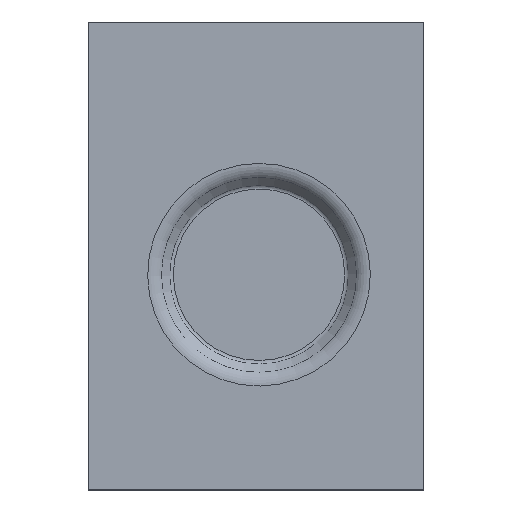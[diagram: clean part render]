
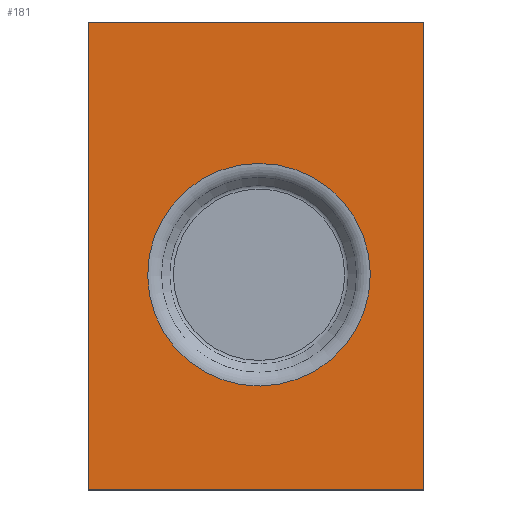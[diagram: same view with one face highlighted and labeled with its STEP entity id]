
A CAD part, top view. The second image highlights one B-rep face of the part: STEP entity #181.
In plain terms, the highlighted planar face has unit normal (0, 0, 1).
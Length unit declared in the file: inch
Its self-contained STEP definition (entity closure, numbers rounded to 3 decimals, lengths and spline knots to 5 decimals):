
#26=CARTESIAN_POINT('',(-3.07489,5.85,0.05));
#27=VERTEX_POINT('',#26);
#42=CARTESIAN_POINT('',(-3.07489,3.58606,0.05));
#43=VERTEX_POINT('',#42);
#50=CARTESIAN_POINT('',(-3.07489,6.60929,0.05));
#51=DIRECTION('',(0.,-1.,0.));
#52=VECTOR('',#51,1.);
#53=LINE('',#50,#52);
#54=EDGE_CURVE('',#27,#43,#53,.T.);
#73=CARTESIAN_POINT('',(-1.45422,3.58606,0.05));
#74=VERTEX_POINT('',#73);
#81=CARTESIAN_POINT('',(28.15854,3.58606,0.05));
#82=DIRECTION('',(1.,0.,0.));
#83=VECTOR('',#82,1.);
#84=LINE('',#81,#83);
#85=EDGE_CURVE('',#43,#74,#84,.T.);
#131=CARTESIAN_POINT('',(-1.45422,5.85,0.05));
#132=VERTEX_POINT('',#131);
#133=CARTESIAN_POINT('',(3.529,5.85,0.05));
#134=DIRECTION('',(-1.,0.,0.));
#135=VECTOR('',#134,7.058);
#136=LINE('',#133,#135);
#137=EDGE_CURVE('',#132,#27,#136,.T.);
#154=ORIENTED_EDGE('',*,*,#54,.T.);
#155=ORIENTED_EDGE('',*,*,#85,.T.);
#156=CARTESIAN_POINT('',(-1.45422,14.50074,0.05));
#157=DIRECTION('',(0.,1.,0.));
#158=VECTOR('',#157,1.);
#159=LINE('',#156,#158);
#160=EDGE_CURVE('',#74,#132,#159,.T.);
#161=ORIENTED_EDGE('',*,*,#160,.T.);
#162=ORIENTED_EDGE('',*,*,#137,.T.);
#163=EDGE_LOOP('',(#154,#155,#161,#162));
#164=FACE_OUTER_BOUND('',#163,.T.);
#165=CARTESIAN_POINT('',(-2.78849,4.622,0.05));
#166=VERTEX_POINT('',#165);
#167=CARTESIAN_POINT('',(-2.25,4.6274,0.05));
#168=DIRECTION('',(0.,0.,1.));
#169=DIRECTION('',(1.,0.,0.));
#170=AXIS2_PLACEMENT_3D('',#167,#168,#169);
#171=CIRCLE('',#170,0.53852);
#172=EDGE_CURVE('',#166,#166,#171,.T.);
#173=ORIENTED_EDGE('',*,*,#172,.F.);
#174=EDGE_LOOP('',(#173));
#175=FACE_BOUND('',#174,.T.);
#176=CARTESIAN_POINT('',(0.,0.,0.05));
#177=DIRECTION('',(0.,0.,1.));
#178=DIRECTION('',(1.,0.,0.));
#179=AXIS2_PLACEMENT_3D('',#176,#177,#178);
#180=PLANE('',#179);
#181=ADVANCED_FACE('',(#164,#175),#180,.T.);
